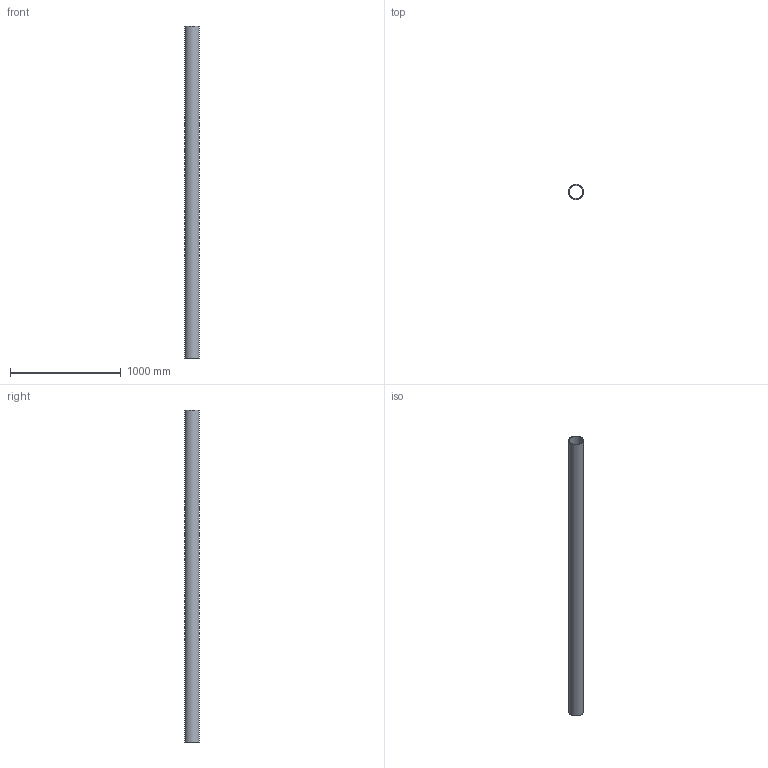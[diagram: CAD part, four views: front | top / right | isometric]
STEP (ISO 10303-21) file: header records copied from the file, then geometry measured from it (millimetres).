
FILE_DESCRIPTION(/* description */ (''),/* implementation_level */ '2;1');
FILE_NAME(/* name */ 'Z:\Geberit\Export\Export18\Rohr PE_Ipart\stp\312000.stp',/* time_stamp */ '2014-08-26T22:08:14+02:00',/* author */ ('Bründl'),/* organization */ (''),/* preprocessor_version */ 'ST-DEVELOPER v15.2',/* originating_system */ 'Autodesk Inventor 2014',/* authorisation */ '');
FILE_SCHEMA (('AUTOMOTIVE_DESIGN { 1 0 10303 214 3 1 1 }'));
Length unit declared in the file: millimetre
Products named in the file (1): 312000
Bounding box: 135 x 135 x 3000 mm (x, y, z)
Volume: 7294778.1 mm3; surface area: 2436455.9 mm2
Topology: 1 solids, 1 shells, 4 faces, 6 edges, 4 vertices
Faces by surface type: cylinder 2, plane 2
Full cylindrical faces by diameter (mm): 123 x1, 135 x1
Entity records: 113 total; most frequent: DIRECTION 18, CARTESIAN_POINT 13, AXIS2_PLACEMENT_3D 9, EDGE_LOOP 8, ORIENTED_EDGE 8, FACE_BOUND 6, STYLED_ITEM 5, CIRCLE 4
